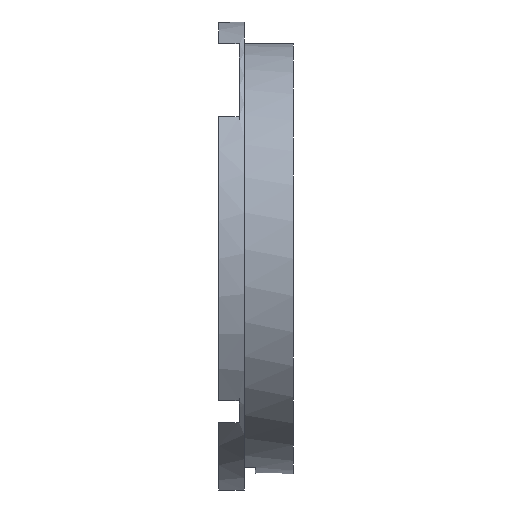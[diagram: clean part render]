
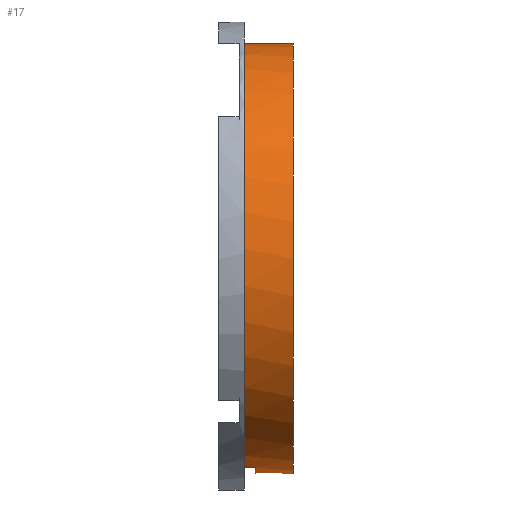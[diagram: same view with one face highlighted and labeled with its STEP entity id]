
A CAD part, front view. The second image highlights one B-rep face of the part: STEP entity #17.
In plain terms, the highlighted cylindrical face has radius 5.9 mm (diameter 11.8 mm), a full revolution.
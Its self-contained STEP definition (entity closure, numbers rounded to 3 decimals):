
#17 = ADVANCED_FACE('',(#18),#33,.T.);
#18 = FACE_BOUND('',#19,.T.);
#19 = EDGE_LOOP('',(#20,#56,#79,#106,#107,#131,#157,#190));
#20 = ORIENTED_EDGE('',*,*,#21,.T.);
#21 = EDGE_CURVE('',#22,#24,#26,.T.);
#22 = VERTEX_POINT('',#23);
#23 = CARTESIAN_POINT('',(37.95,21.4,8.519));
#24 = VERTEX_POINT('',#25);
#25 = CARTESIAN_POINT('',(37.95,25.9,14.25));
#26 = SURFACE_CURVE('',#27,(#32,#44),.PCURVE_S1.);
#27 = CIRCLE('',#28,5.9);
#28 = AXIS2_PLACEMENT_3D('',#29,#30,#31);
#29 = CARTESIAN_POINT('',(37.95,20.,14.25));
#30 = DIRECTION('',(1.,0.,0.));
#31 = DIRECTION('',(-0.,1.,0.));
#32 = PCURVE('',#33,#38);
#33 = CYLINDRICAL_SURFACE('',#34,5.9);
#34 = AXIS2_PLACEMENT_3D('',#35,#36,#37);
#35 = CARTESIAN_POINT('',(38.45,20.,14.25));
#36 = DIRECTION('',(-1.,-0.,-0.));
#37 = DIRECTION('',(0.,1.,0.));
#38 = DEFINITIONAL_REPRESENTATION('',(#39),#43);
#39 = LINE('',#40,#41);
#40 = CARTESIAN_POINT('',(6.283,0.5));
#41 = VECTOR('',#42,1.);
#42 = DIRECTION('',(-1.,0.));
#43 = ( GEOMETRIC_REPRESENTATION_CONTEXT(2) 
PARAMETRIC_REPRESENTATION_CONTEXT() REPRESENTATION_CONTEXT('2D SPACE',''
  ) );
#44 = PCURVE('',#45,#50);
#45 = PLANE('',#46);
#46 = AXIS2_PLACEMENT_3D('',#47,#48,#49);
#47 = CARTESIAN_POINT('',(37.95,20.,14.25));
#48 = DIRECTION('',(1.,0.,0.));
#49 = DIRECTION('',(-0.,0.,1.));
#50 = DEFINITIONAL_REPRESENTATION('',(#51),#55);
#51 = CIRCLE('',#52,5.9);
#52 = AXIS2_PLACEMENT_2D('',#53,#54);
#53 = CARTESIAN_POINT('',(0.,0.));
#54 = DIRECTION('',(0.,-1.));
#55 = ( GEOMETRIC_REPRESENTATION_CONTEXT(2) 
PARAMETRIC_REPRESENTATION_CONTEXT() REPRESENTATION_CONTEXT('2D SPACE',''
  ) );
#56 = ORIENTED_EDGE('',*,*,#57,.T.);
#57 = EDGE_CURVE('',#24,#58,#60,.T.);
#58 = VERTEX_POINT('',#59);
#59 = CARTESIAN_POINT('',(39.3,25.9,14.25));
#60 = SEAM_CURVE('',#61,(#65,#72),.PCURVE_S1.);
#61 = LINE('',#62,#63);
#62 = CARTESIAN_POINT('',(37.95,25.9,14.25));
#63 = VECTOR('',#64,1.);
#64 = DIRECTION('',(1.,0.,0.));
#65 = PCURVE('',#33,#66);
#66 = DEFINITIONAL_REPRESENTATION('',(#67),#71);
#67 = LINE('',#68,#69);
#68 = CARTESIAN_POINT('',(6.283,0.5));
#69 = VECTOR('',#70,1.);
#70 = DIRECTION('',(-0.,-1.));
#71 = ( GEOMETRIC_REPRESENTATION_CONTEXT(2) 
PARAMETRIC_REPRESENTATION_CONTEXT() REPRESENTATION_CONTEXT('2D SPACE',''
  ) );
#72 = PCURVE('',#33,#73);
#73 = DEFINITIONAL_REPRESENTATION('',(#74),#78);
#74 = LINE('',#75,#76);
#75 = CARTESIAN_POINT('',(0.,0.5));
#76 = VECTOR('',#77,1.);
#77 = DIRECTION('',(-0.,-1.));
#78 = ( GEOMETRIC_REPRESENTATION_CONTEXT(2) 
PARAMETRIC_REPRESENTATION_CONTEXT() REPRESENTATION_CONTEXT('2D SPACE',''
  ) );
#79 = ORIENTED_EDGE('',*,*,#80,.F.);
#80 = EDGE_CURVE('',#58,#58,#81,.T.);
#81 = SURFACE_CURVE('',#82,(#87,#94),.PCURVE_S1.);
#82 = CIRCLE('',#83,5.9);
#83 = AXIS2_PLACEMENT_3D('',#84,#85,#86);
#84 = CARTESIAN_POINT('',(39.3,20.,14.25));
#85 = DIRECTION('',(1.,0.,0.));
#86 = DIRECTION('',(-0.,1.,0.));
#87 = PCURVE('',#33,#88);
#88 = DEFINITIONAL_REPRESENTATION('',(#89),#93);
#89 = LINE('',#90,#91);
#90 = CARTESIAN_POINT('',(6.283,-0.85));
#91 = VECTOR('',#92,1.);
#92 = DIRECTION('',(-1.,0.));
#93 = ( GEOMETRIC_REPRESENTATION_CONTEXT(2) 
PARAMETRIC_REPRESENTATION_CONTEXT() REPRESENTATION_CONTEXT('2D SPACE',''
  ) );
#94 = PCURVE('',#95,#100);
#95 = PLANE('',#96);
#96 = AXIS2_PLACEMENT_3D('',#97,#98,#99);
#97 = CARTESIAN_POINT('',(39.3,20.,14.25));
#98 = DIRECTION('',(1.,0.,0.));
#99 = DIRECTION('',(-0.,0.,1.));
#100 = DEFINITIONAL_REPRESENTATION('',(#101),#105);
#101 = CIRCLE('',#102,5.9);
#102 = AXIS2_PLACEMENT_2D('',#103,#104);
#103 = CARTESIAN_POINT('',(0.,0.));
#104 = DIRECTION('',(0.,-1.));
#105 = ( GEOMETRIC_REPRESENTATION_CONTEXT(2) 
PARAMETRIC_REPRESENTATION_CONTEXT() REPRESENTATION_CONTEXT('2D SPACE',''
  ) );
#106 = ORIENTED_EDGE('',*,*,#57,.F.);
#107 = ORIENTED_EDGE('',*,*,#108,.T.);
#108 = EDGE_CURVE('',#24,#109,#111,.T.);
#109 = VERTEX_POINT('',#110);
#110 = CARTESIAN_POINT('',(37.95,18.6,8.519));
#111 = SURFACE_CURVE('',#112,(#117,#124),.PCURVE_S1.);
#112 = CIRCLE('',#113,5.9);
#113 = AXIS2_PLACEMENT_3D('',#114,#115,#116);
#114 = CARTESIAN_POINT('',(37.95,20.,14.25));
#115 = DIRECTION('',(1.,0.,0.));
#116 = DIRECTION('',(-0.,1.,0.));
#117 = PCURVE('',#33,#118);
#118 = DEFINITIONAL_REPRESENTATION('',(#119),#123);
#119 = LINE('',#120,#121);
#120 = CARTESIAN_POINT('',(6.283,0.5));
#121 = VECTOR('',#122,1.);
#122 = DIRECTION('',(-1.,0.));
#123 = ( GEOMETRIC_REPRESENTATION_CONTEXT(2) 
PARAMETRIC_REPRESENTATION_CONTEXT() REPRESENTATION_CONTEXT('2D SPACE',''
  ) );
#124 = PCURVE('',#45,#125);
#125 = DEFINITIONAL_REPRESENTATION('',(#126),#130);
#126 = CIRCLE('',#127,5.9);
#127 = AXIS2_PLACEMENT_2D('',#128,#129);
#128 = CARTESIAN_POINT('',(0.,0.));
#129 = DIRECTION('',(0.,-1.));
#130 = ( GEOMETRIC_REPRESENTATION_CONTEXT(2) 
PARAMETRIC_REPRESENTATION_CONTEXT() REPRESENTATION_CONTEXT('2D SPACE',''
  ) );
#131 = ORIENTED_EDGE('',*,*,#132,.F.);
#132 = EDGE_CURVE('',#133,#109,#135,.T.);
#133 = VERTEX_POINT('',#134);
#134 = CARTESIAN_POINT('',(38.26,18.6,8.519));
#135 = SURFACE_CURVE('',#136,(#140,#146),.PCURVE_S1.);
#136 = LINE('',#137,#138);
#137 = CARTESIAN_POINT('',(38.45,18.6,8.519));
#138 = VECTOR('',#139,1.);
#139 = DIRECTION('',(-1.,-0.,-0.));
#140 = PCURVE('',#33,#141);
#141 = DEFINITIONAL_REPRESENTATION('',(#142),#145);
#142 = B_SPLINE_CURVE_WITH_KNOTS('',1,(#143,#144),.UNSPECIFIED.,.F.,.F.,
  (2,2),(0.004,0.5),.PIECEWISE_BEZIER_KNOTS.);
#143 = CARTESIAN_POINT('',(1.81,0.004));
#144 = CARTESIAN_POINT('',(1.81,0.5));
#145 = ( GEOMETRIC_REPRESENTATION_CONTEXT(2) 
PARAMETRIC_REPRESENTATION_CONTEXT() REPRESENTATION_CONTEXT('2D SPACE',''
  ) );
#146 = PCURVE('',#147,#152);
#147 = PLANE('',#148);
#148 = AXIS2_PLACEMENT_3D('',#149,#150,#151);
#149 = CARTESIAN_POINT('',(36.4,18.6,-5.75));
#150 = DIRECTION('',(0.,1.,0.));
#151 = DIRECTION('',(0.,0.,1.));
#152 = DEFINITIONAL_REPRESENTATION('',(#153),#156);
#153 = B_SPLINE_CURVE_WITH_KNOTS('',1,(#154,#155),.UNSPECIFIED.,.F.,.F.,
  (2,2),(0.004,0.5),.PIECEWISE_BEZIER_KNOTS.);
#154 = CARTESIAN_POINT('',(14.269,2.046));
#155 = CARTESIAN_POINT('',(14.269,1.55));
#156 = ( GEOMETRIC_REPRESENTATION_CONTEXT(2) 
PARAMETRIC_REPRESENTATION_CONTEXT() REPRESENTATION_CONTEXT('2D SPACE',''
  ) );
#157 = ORIENTED_EDGE('',*,*,#158,.F.);
#158 = EDGE_CURVE('',#159,#133,#161,.T.);
#159 = VERTEX_POINT('',#160);
#160 = CARTESIAN_POINT('',(38.26,21.4,8.519));
#161 = SURFACE_CURVE('',#162,(#167,#174),.PCURVE_S1.);
#162 = CIRCLE('',#163,5.9);
#163 = AXIS2_PLACEMENT_3D('',#164,#165,#166);
#164 = CARTESIAN_POINT('',(38.26,20.,14.25));
#165 = DIRECTION('',(-1.,0.,0.));
#166 = DIRECTION('',(0.,1.,0.));
#167 = PCURVE('',#33,#168);
#168 = DEFINITIONAL_REPRESENTATION('',(#169),#173);
#169 = LINE('',#170,#171);
#170 = CARTESIAN_POINT('',(0.,0.19));
#171 = VECTOR('',#172,1.);
#172 = DIRECTION('',(1.,0.));
#173 = ( GEOMETRIC_REPRESENTATION_CONTEXT(2) 
PARAMETRIC_REPRESENTATION_CONTEXT() REPRESENTATION_CONTEXT('2D SPACE',''
  ) );
#174 = PCURVE('',#175,#180);
#175 = PLANE('',#176);
#176 = AXIS2_PLACEMENT_3D('',#177,#178,#179);
#177 = CARTESIAN_POINT('',(38.26,18.6,-5.75));
#178 = DIRECTION('',(1.,0.,0.));
#179 = DIRECTION('',(0.,0.,1.));
#180 = DEFINITIONAL_REPRESENTATION('',(#181),#189);
#181 = ( BOUNDED_CURVE() B_SPLINE_CURVE(2,(#182,#183,#184,#185,#186,#187
,#188),.UNSPECIFIED.,.T.,.F.) B_SPLINE_CURVE_WITH_KNOTS((1,2,2,2,2,1),(
    -2.094,0.,2.094,4.189,6.283,
8.378),.UNSPECIFIED.) CURVE() GEOMETRIC_REPRESENTATION_ITEM() 
RATIONAL_B_SPLINE_CURVE((1.,0.5,1.,0.5,1.,0.5,1.)) REPRESENTATION_ITEM(
  '') );
#182 = CARTESIAN_POINT('',(20.,-7.3));
#183 = CARTESIAN_POINT('',(9.781,-7.3));
#184 = CARTESIAN_POINT('',(14.89,1.55));
#185 = CARTESIAN_POINT('',(20.,10.4));
#186 = CARTESIAN_POINT('',(25.11,1.55));
#187 = CARTESIAN_POINT('',(30.219,-7.3));
#188 = CARTESIAN_POINT('',(20.,-7.3));
#189 = ( GEOMETRIC_REPRESENTATION_CONTEXT(2) 
PARAMETRIC_REPRESENTATION_CONTEXT() REPRESENTATION_CONTEXT('2D SPACE',''
  ) );
#190 = ORIENTED_EDGE('',*,*,#191,.T.);
#191 = EDGE_CURVE('',#159,#22,#192,.T.);
#192 = SURFACE_CURVE('',#193,(#197,#203),.PCURVE_S1.);
#193 = LINE('',#194,#195);
#194 = CARTESIAN_POINT('',(38.45,21.4,8.519));
#195 = VECTOR('',#196,1.);
#196 = DIRECTION('',(-1.,-0.,-0.));
#197 = PCURVE('',#33,#198);
#198 = DEFINITIONAL_REPRESENTATION('',(#199),#202);
#199 = B_SPLINE_CURVE_WITH_KNOTS('',1,(#200,#201),.UNSPECIFIED.,.F.,.F.,
  (2,2),(0.004,0.5),.PIECEWISE_BEZIER_KNOTS.);
#200 = CARTESIAN_POINT('',(1.331,0.004));
#201 = CARTESIAN_POINT('',(1.331,0.5));
#202 = ( GEOMETRIC_REPRESENTATION_CONTEXT(2) 
PARAMETRIC_REPRESENTATION_CONTEXT() REPRESENTATION_CONTEXT('2D SPACE',''
  ) );
#203 = PCURVE('',#204,#209);
#204 = PLANE('',#205);
#205 = AXIS2_PLACEMENT_3D('',#206,#207,#208);
#206 = CARTESIAN_POINT('',(36.4,21.4,-5.75));
#207 = DIRECTION('',(0.,1.,0.));
#208 = DIRECTION('',(0.,0.,1.));
#209 = DEFINITIONAL_REPRESENTATION('',(#210),#213);
#210 = B_SPLINE_CURVE_WITH_KNOTS('',1,(#211,#212),.UNSPECIFIED.,.F.,.F.,
  (2,2),(0.004,0.5),.PIECEWISE_BEZIER_KNOTS.);
#211 = CARTESIAN_POINT('',(14.269,2.046));
#212 = CARTESIAN_POINT('',(14.269,1.55));
#213 = ( GEOMETRIC_REPRESENTATION_CONTEXT(2) 
PARAMETRIC_REPRESENTATION_CONTEXT() REPRESENTATION_CONTEXT('2D SPACE',''
  ) );
